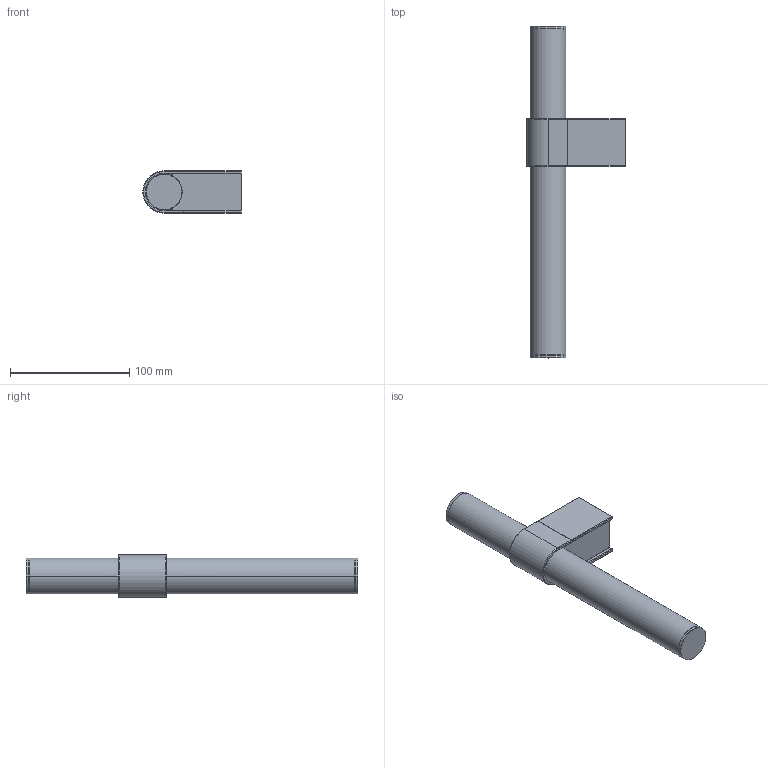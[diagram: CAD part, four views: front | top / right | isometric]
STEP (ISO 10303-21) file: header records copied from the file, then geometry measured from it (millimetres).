
FILE_DESCRIPTION (( 'STEP AP203' ), '1' );
FILE_NAME ('APPARALEMIXXXXX-PER 3D.STEP', '2026-07-08T10:29:38', ( '' ), ( '' ), 'SwSTEP 2.0', 'SolidWorks 2026', '' );
FILE_SCHEMA (( 'CONFIG_CONTROL_DESIGN' ));
Length unit declared in the file: millimetre
Products named in the file (1): APPARALEMIXXXXX-PER 3D
Bounding box: 82.32 x 278 x 35.5 mm (x, y, z)
Surface area: 47010 mm2 (no closed solid volume)
Topology: 0 solids, 6 shells, 107 faces, 448 edges, 336 vertices
Faces by surface type: cylinder 47, plane 38, torus 17, bspline 5
Entity records: 5291 total; most frequent: CARTESIAN_POINT 1644, DIRECTION 785, ORIENTED_EDGE 610, EDGE_CURVE 448, VERTEX_POINT 336, AXIS2_PLACEMENT_3D 276, VECTOR 233, LINE 233
